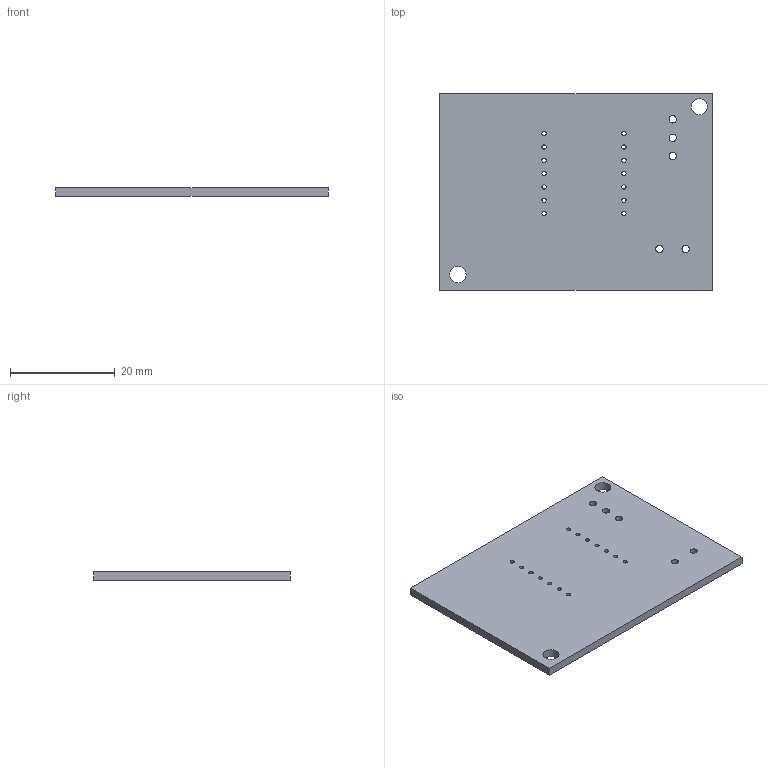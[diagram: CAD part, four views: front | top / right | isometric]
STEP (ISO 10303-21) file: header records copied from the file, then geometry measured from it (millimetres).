
FILE_DESCRIPTION(('KiCad electronic assembly'),'2;1');
FILE_NAME('Final Project_Breathing Library.step','2024-05-30T18:59:24',( 'Pcbnew'),('Kicad'),'Open CASCADE STEP processor 7.7', 'KiCad to STEP converter','Unknown');
FILE_SCHEMA(('AUTOMOTIVE_DESIGN { 1 0 10303 214 1 1 1 1 }'));
Length unit declared in the file: millimetre
Products named in the file (2): Final Project_Breathing Library 1; Final Project_Breathing Library_PCB
Assembly tree (1 placements, depth 2):
  Final Project_Breathing Library 1
    Final Project_Breathing Library_PCB
Bounding box: 52 x 37.5 x 1.6 mm (x, y, z)
Volume: 3072.3 mm3; surface area: 4249.4 mm2
Topology: 1 solids, 1 shells, 27 faces, 75 edges, 50 vertices
Faces by surface type: cylinder 21, plane 6
Full cylindrical faces by diameter (mm): 0.8 x14, 1.4 x5, 3.1 x2
Entity records: 1012 total; most frequent: DIRECTION 175, CARTESIAN_POINT 154, ORIENTED_EDGE 150, EDGE_CURVE 75, AXIS2_PLACEMENT_3D 71, FACE_BOUND 69, EDGE_LOOP 69, VERTEX_POINT 50
